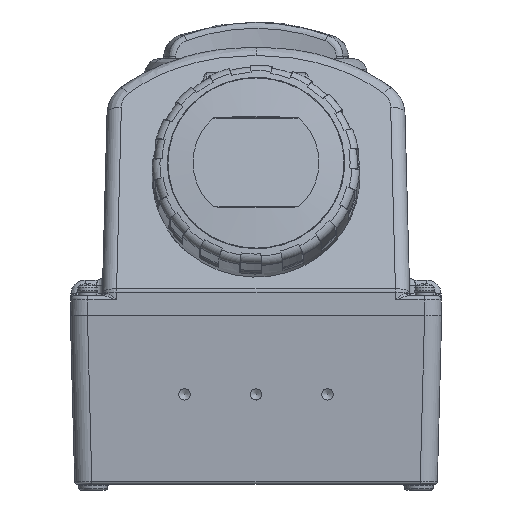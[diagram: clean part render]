
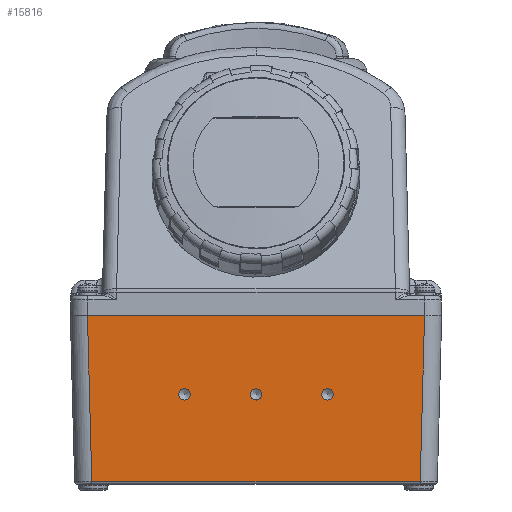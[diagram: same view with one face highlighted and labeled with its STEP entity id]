
A CAD part, front view. The second image highlights one B-rep face of the part: STEP entity #15816.
In plain terms, the highlighted planar face has unit normal (0, -1, -0.026).
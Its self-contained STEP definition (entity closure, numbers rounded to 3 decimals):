
#2031=FACE_BOUND('',#24305,.T.);
#2032=FACE_BOUND('',#24306,.T.);
#2033=FACE_BOUND('',#24307,.T.);
#2034=FACE_BOUND('',#24308,.T.);
#4317=PLANE('',#70801);
#6074=LINE('',#131418,#9551);
#6093=LINE('',#131695,#9570);
#6095=LINE('',#131702,#9572);
#7487=LINE('',#163128,#10964);
#9551=VECTOR('',#79845,1.);
#9570=VECTOR('',#79888,1.);
#9572=VECTOR('',#79896,1.);
#10964=VECTOR('',#85230,1.);
#15816=ADVANCED_FACE('',(#2031,#2032,#2033,#2034),#4317,.F.);
#24305=EDGE_LOOP('',(#44459,#44460,#44461,#44462));
#24306=EDGE_LOOP('',(#44463));
#24307=EDGE_LOOP('',(#44464));
#24308=EDGE_LOOP('',(#44465));
#44459=ORIENTED_EDGE('',*,*,#58008,.T.);
#44460=ORIENTED_EDGE('',*,*,#58012,.T.);
#44461=ORIENTED_EDGE('',*,*,#57966,.F.);
#44462=ORIENTED_EDGE('',*,*,#61433,.F.);
#44463=ORIENTED_EDGE('',*,*,#61430,.F.);
#44464=ORIENTED_EDGE('',*,*,#61431,.F.);
#44465=ORIENTED_EDGE('',*,*,#61432,.F.);
#50209=VERTEX_POINT('',#131417);
#50210=VERTEX_POINT('',#131419);
#50246=VERTEX_POINT('',#131692);
#50247=VERTEX_POINT('',#131694);
#52233=VERTEX_POINT('',#163118);
#52235=VERTEX_POINT('',#163122);
#52237=VERTEX_POINT('',#163126);
#57966=EDGE_CURVE('',#50209,#50210,#6074,.T.);
#58008=EDGE_CURVE('',#50246,#50247,#6093,.T.);
#58012=EDGE_CURVE('',#50247,#50210,#6095,.T.);
#61430=EDGE_CURVE('',#52233,#52233,#65183,.T.);
#61431=EDGE_CURVE('',#52235,#52235,#65184,.T.);
#61432=EDGE_CURVE('',#52237,#52237,#65185,.T.);
#61433=EDGE_CURVE('',#50246,#50209,#7487,.T.);
#65183=CIRCLE('',#70795,1.991);
#65184=CIRCLE('',#70797,1.991);
#65185=CIRCLE('',#70799,1.991);
#70795=AXIS2_PLACEMENT_3D('',#163117,#85218,#85219);
#70797=AXIS2_PLACEMENT_3D('',#163121,#85222,#85223);
#70799=AXIS2_PLACEMENT_3D('',#163125,#85226,#85227);
#70801=AXIS2_PLACEMENT_3D('',#163129,#85231,#85232);
#79845=DIRECTION('',(-0.026,0.026,-0.999));
#79888=DIRECTION('',(0.026,0.026,-0.999));
#79896=DIRECTION('',(1.,0.,0.));
#85218=DIRECTION('',(0.,-1.,-0.026));
#85219=DIRECTION('',(1.,0.,0.));
#85222=DIRECTION('',(0.,-1.,-0.026));
#85223=DIRECTION('',(1.,0.,0.));
#85226=DIRECTION('',(0.,-1.,-0.026));
#85227=DIRECTION('',(1.,0.,0.));
#85230=DIRECTION('',(1.,0.,0.));
#85231=DIRECTION('',(0.,1.,0.026));
#85232=DIRECTION('',(-1.,0.,0.));
#131417=CARTESIAN_POINT('',(59.002,-130.,0.));
#131418=CARTESIAN_POINT('',(59.002,-130.,0.));
#131419=CARTESIAN_POINT('',(57.483,-128.481,-58.026));
#131692=CARTESIAN_POINT('',(-59.002,-130.,0.));
#131694=CARTESIAN_POINT('',(-57.483,-128.481,-58.026));
#131695=CARTESIAN_POINT('',(-59.002,-130.,0.));
#131702=CARTESIAN_POINT('',(-57.483,-128.481,-58.026));
#163117=CARTESIAN_POINT('',(-25.,-129.279,-27.515));
#163118=CARTESIAN_POINT('',(-23.009,-129.279,-27.515));
#163121=CARTESIAN_POINT('',(0.,-129.279,-27.515));
#163122=CARTESIAN_POINT('',(1.991,-129.279,-27.515));
#163125=CARTESIAN_POINT('',(25.,-129.279,-27.515));
#163126=CARTESIAN_POINT('',(26.991,-129.279,-27.515));
#163128=CARTESIAN_POINT('',(-59.002,-130.,0.));
#163129=CARTESIAN_POINT('',(-65.,-130.,0.));
